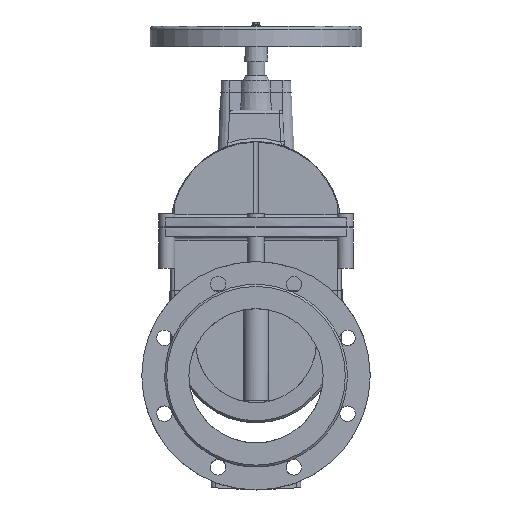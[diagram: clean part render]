
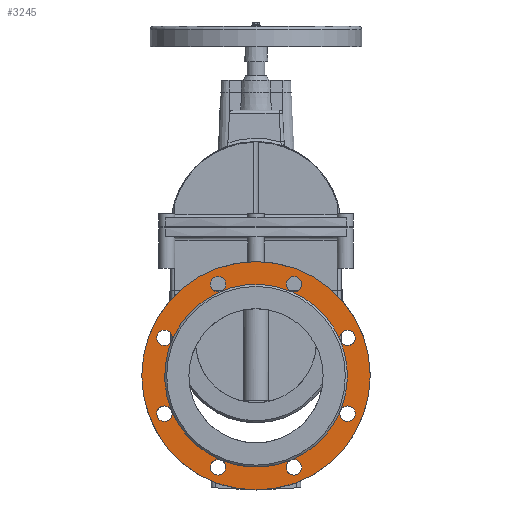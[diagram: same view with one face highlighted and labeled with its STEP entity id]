
A CAD part, left-side view. The second image highlights one B-rep face of the part: STEP entity #3245.
In plain terms, the highlighted planar face has unit normal (-1, 0, 0).
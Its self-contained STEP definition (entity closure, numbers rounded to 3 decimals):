
#3245=ADVANCED_FACE('',(#8237,#8239,#8241,#8243,#8245,#8247,#8249,#8251,#8253,#8255),
#8257,.F.);
#8237=FACE_BOUND('',#8238,.T.);
#8238=EDGE_LOOP('',(#17262));
#8239=FACE_BOUND('',#8240,.T.);
#8240=EDGE_LOOP('',(#17263,#17264));
#8241=FACE_BOUND('',#8242,.T.);
#8242=EDGE_LOOP('',(#17265));
#8243=FACE_BOUND('',#8244,.T.);
#8244=EDGE_LOOP('',(#17266));
#8245=FACE_BOUND('',#8246,.T.);
#8246=EDGE_LOOP('',(#17267,#17268,#17269,#17270,#17271,#17272,#17273));
#8247=FACE_BOUND('',#8248,.T.);
#8248=EDGE_LOOP('',(#17274,#17275));
#8249=FACE_BOUND('',#8250,.T.);
#8250=EDGE_LOOP('',(#17276,#17277));
#8251=FACE_BOUND('',#8252,.T.);
#8252=EDGE_LOOP('',(#17278,#17279));
#8253=FACE_BOUND('',#8254,.T.);
#8254=EDGE_LOOP('',(#17280,#17281));
#8255=FACE_BOUND('',#8256,.T.);
#8256=EDGE_LOOP('',(#17282,#17283));
#8257=PLANE('',#8258);
#8258=AXIS2_PLACEMENT_3D('',#8259,#8260,#8261);
#8259=CARTESIAN_POINT('',(-112.,0.,0.));
#8260=DIRECTION('',(1.,0.,0.));
#8261=DIRECTION('',(0.,1.,0.));
#17262=ORIENTED_EDGE('',*,*,#19967,.F.);
#17263=ORIENTED_EDGE('',*,*,#19975,.T.);
#17264=ORIENTED_EDGE('',*,*,#19976,.T.);
#17265=ORIENTED_EDGE('',*,*,#19974,.T.);
#17266=ORIENTED_EDGE('',*,*,#19987,.T.);
#17267=ORIENTED_EDGE('',*,*,#20110,.F.);
#17268=ORIENTED_EDGE('',*,*,#20111,.F.);
#17269=ORIENTED_EDGE('',*,*,#20112,.F.);
#17270=ORIENTED_EDGE('',*,*,#20113,.F.);
#17271=ORIENTED_EDGE('',*,*,#20114,.F.);
#17272=ORIENTED_EDGE('',*,*,#20115,.F.);
#17273=ORIENTED_EDGE('',*,*,#20116,.F.);
#17274=ORIENTED_EDGE('',*,*,#19986,.T.);
#17275=ORIENTED_EDGE('',*,*,#19985,.T.);
#17276=ORIENTED_EDGE('',*,*,#19984,.T.);
#17277=ORIENTED_EDGE('',*,*,#19983,.T.);
#17278=ORIENTED_EDGE('',*,*,#19982,.T.);
#17279=ORIENTED_EDGE('',*,*,#19981,.T.);
#17280=ORIENTED_EDGE('',*,*,#19980,.T.);
#17281=ORIENTED_EDGE('',*,*,#19979,.T.);
#17282=ORIENTED_EDGE('',*,*,#19977,.T.);
#17283=ORIENTED_EDGE('',*,*,#19978,.T.);
#19967=EDGE_CURVE('',#22602,#22602,#22603,.T.);
#19974=EDGE_CURVE('',#22612,#22612,#22613,.T.);
#19975=EDGE_CURVE('',#22614,#22615,#22616,.T.);
#19976=EDGE_CURVE('',#22615,#22614,#22617,.T.);
#19977=EDGE_CURVE('',#22618,#22619,#22620,.T.);
#19978=EDGE_CURVE('',#22619,#22618,#22621,.T.);
#19979=EDGE_CURVE('',#22622,#22623,#22624,.T.);
#19980=EDGE_CURVE('',#22623,#22622,#22625,.T.);
#19981=EDGE_CURVE('',#22626,#22627,#22628,.T.);
#19982=EDGE_CURVE('',#22627,#22626,#22629,.T.);
#19983=EDGE_CURVE('',#22630,#22631,#22632,.T.);
#19984=EDGE_CURVE('',#22631,#22630,#22633,.T.);
#19985=EDGE_CURVE('',#22634,#22635,#22636,.T.);
#19986=EDGE_CURVE('',#22635,#22634,#22637,.T.);
#19987=EDGE_CURVE('',#22638,#22638,#22639,.T.);
#20110=EDGE_CURVE('',#22631,#22635,#22831,.T.);
#20111=EDGE_CURVE('',#22832,#22631,#22833,.T.);
#20112=EDGE_CURVE('',#22627,#22832,#22834,.T.);
#20113=EDGE_CURVE('',#22623,#22627,#22835,.T.);
#20114=EDGE_CURVE('',#22618,#22623,#22836,.T.);
#20115=EDGE_CURVE('',#22614,#22618,#22837,.T.);
#20116=EDGE_CURVE('',#22635,#22614,#22838,.T.);
#22602=VERTEX_POINT('',#31098);
#22603=CIRCLE('',#31099,170.);
#22612=VERTEX_POINT('',#31125);
#22613=CIRCLE('',#31126,11.5);
#22614=VERTEX_POINT('',#31130);
#22615=VERTEX_POINT('',#31131);
#22616=CIRCLE('',#31132,11.5);
#22617=CIRCLE('',#31136,11.5);
#22618=VERTEX_POINT('',#31140);
#22619=VERTEX_POINT('',#31141);
#22620=CIRCLE('',#31142,11.5);
#22621=CIRCLE('',#31146,11.5);
#22622=VERTEX_POINT('',#31150);
#22623=VERTEX_POINT('',#31151);
#22624=CIRCLE('',#31152,11.5);
#22625=CIRCLE('',#31156,11.5);
#22626=VERTEX_POINT('',#31160);
#22627=VERTEX_POINT('',#31161);
#22628=CIRCLE('',#31162,11.5);
#22629=CIRCLE('',#31166,11.5);
#22630=VERTEX_POINT('',#31170);
#22631=VERTEX_POINT('',#31171);
#22632=CIRCLE('',#31172,11.5);
#22633=CIRCLE('',#31176,11.5);
#22634=VERTEX_POINT('',#31180);
#22635=VERTEX_POINT('',#31181);
#22636=CIRCLE('',#31182,11.5);
#22637=CIRCLE('',#31186,11.5);
#22638=VERTEX_POINT('',#31190);
#22639=CIRCLE('',#31191,11.5);
#22831=CIRCLE('',#31787,136.);
#22832=VERTEX_POINT('',#31791);
#22833=CIRCLE('',#31792,136.);
#22834=CIRCLE('',#31796,136.);
#22835=CIRCLE('',#31800,136.);
#22836=CIRCLE('',#31804,136.);
#22837=CIRCLE('',#31808,136.);
#22838=CIRCLE('',#31812,136.);
#31098=CARTESIAN_POINT('',(-112.,170.,0.));
#31099=AXIS2_PLACEMENT_3D('',#31100,#31101,#31102);
#31100=CARTESIAN_POINT('',(-112.,0.,0.));
#31101=DIRECTION('',(1.,0.,0.));
#31102=DIRECTION('',(0.,1.,0.));
#31125=CARTESIAN_POINT('',(-112.,147.772,56.446));
#31126=AXIS2_PLACEMENT_3D('',#31127,#31128,#31129);
#31127=CARTESIAN_POINT('',(-112.,136.272,56.446));
#31128=DIRECTION('',(1.,0.,0.));
#31129=DIRECTION('',(0.,1.,0.));
#31130=CARTESIAN_POINT('',(-112.,125.648,-52.045));
#31131=CARTESIAN_POINT('',(-112.,144.404,-64.578));
#31132=AXIS2_PLACEMENT_3D('',#31133,#31134,#31135);
#31133=CARTESIAN_POINT('',(-112.,136.272,-56.446));
#31134=DIRECTION('',(1.,0.,0.));
#31135=DIRECTION('',(0.,-0.924,0.383));
#31136=AXIS2_PLACEMENT_3D('',#31137,#31138,#31139);
#31137=CARTESIAN_POINT('',(-112.,136.272,-56.446));
#31138=DIRECTION('',(1.,0.,0.));
#31139=DIRECTION('',(0.,0.707,-0.707));
#31140=CARTESIAN_POINT('',(-112.,52.045,-125.648));
#31141=CARTESIAN_POINT('',(-112.,56.446,-147.772));
#31142=AXIS2_PLACEMENT_3D('',#31143,#31144,#31145);
#31143=CARTESIAN_POINT('',(-112.,56.446,-136.272));
#31144=DIRECTION('',(1.,0.,0.));
#31145=DIRECTION('',(0.,-0.383,0.924));
#31146=AXIS2_PLACEMENT_3D('',#31147,#31148,#31149);
#31147=CARTESIAN_POINT('',(-112.,56.446,-136.272));
#31148=DIRECTION('',(1.,0.,0.));
#31149=DIRECTION('',(0.,0.,-1.));
#31150=CARTESIAN_POINT('',(-112.,-64.578,-144.404));
#31151=CARTESIAN_POINT('',(-112.,-52.045,-125.648));
#31152=AXIS2_PLACEMENT_3D('',#31153,#31154,#31155);
#31153=CARTESIAN_POINT('',(-112.,-56.446,-136.272));
#31154=DIRECTION('',(1.,0.,0.));
#31155=DIRECTION('',(0.,-0.707,-0.707));
#31156=AXIS2_PLACEMENT_3D('',#31157,#31158,#31159);
#31157=CARTESIAN_POINT('',(-112.,-56.446,-136.272));
#31158=DIRECTION('',(1.,0.,0.));
#31159=DIRECTION('',(0.,0.383,0.924));
#31160=CARTESIAN_POINT('',(-112.,-147.772,-56.446));
#31161=CARTESIAN_POINT('',(-112.,-125.648,-52.045));
#31162=AXIS2_PLACEMENT_3D('',#31163,#31164,#31165);
#31163=CARTESIAN_POINT('',(-112.,-136.272,-56.446));
#31164=DIRECTION('',(1.,0.,0.));
#31165=DIRECTION('',(0.,-1.,0.));
#31166=AXIS2_PLACEMENT_3D('',#31167,#31168,#31169);
#31167=CARTESIAN_POINT('',(-112.,-136.272,-56.446));
#31168=DIRECTION('',(1.,0.,0.));
#31169=DIRECTION('',(0.,0.924,0.383));
#31170=CARTESIAN_POINT('',(-112.,-144.404,64.578));
#31171=CARTESIAN_POINT('',(-112.,-125.648,52.045));
#31172=AXIS2_PLACEMENT_3D('',#31173,#31174,#31175);
#31173=CARTESIAN_POINT('',(-112.,-136.272,56.446));
#31174=DIRECTION('',(1.,0.,0.));
#31175=DIRECTION('',(0.,-0.707,0.707));
#31176=AXIS2_PLACEMENT_3D('',#31177,#31178,#31179);
#31177=CARTESIAN_POINT('',(-112.,-136.272,56.446));
#31178=DIRECTION('',(1.,0.,0.));
#31179=DIRECTION('',(0.,0.924,-0.383));
#31180=CARTESIAN_POINT('',(-112.,-56.446,147.772));
#31181=CARTESIAN_POINT('',(-112.,-52.045,125.648));
#31182=AXIS2_PLACEMENT_3D('',#31183,#31184,#31185);
#31183=CARTESIAN_POINT('',(-112.,-56.446,136.272));
#31184=DIRECTION('',(1.,0.,0.));
#31185=DIRECTION('',(0.,0.,1.));
#31186=AXIS2_PLACEMENT_3D('',#31187,#31188,#31189);
#31187=CARTESIAN_POINT('',(-112.,-56.446,136.272));
#31188=DIRECTION('',(1.,0.,0.));
#31189=DIRECTION('',(0.,0.383,-0.924));
#31190=CARTESIAN_POINT('',(-112.,64.578,144.404));
#31191=AXIS2_PLACEMENT_3D('',#31192,#31193,#31194);
#31192=CARTESIAN_POINT('',(-112.,56.446,136.272));
#31193=DIRECTION('',(1.,0.,0.));
#31194=DIRECTION('',(0.,0.707,0.707));
#31787=AXIS2_PLACEMENT_3D('',#31788,#31789,#31790);
#31788=CARTESIAN_POINT('',(-112.,0.,0.));
#31789=DIRECTION('',(-1.,0.,0.));
#31790=DIRECTION('',(0.,-0.924,0.383));
#31791=CARTESIAN_POINT('',(-112.,-136.,0.));
#31792=AXIS2_PLACEMENT_3D('',#31793,#31794,#31795);
#31793=CARTESIAN_POINT('',(-112.,0.,0.));
#31794=DIRECTION('',(-1.,0.,0.));
#31795=DIRECTION('',(0.,-1.,0.));
#31796=AXIS2_PLACEMENT_3D('',#31797,#31798,#31799);
#31797=CARTESIAN_POINT('',(-112.,0.,0.));
#31798=DIRECTION('',(-1.,0.,0.));
#31799=DIRECTION('',(0.,-0.924,-0.383));
#31800=AXIS2_PLACEMENT_3D('',#31801,#31802,#31803);
#31801=CARTESIAN_POINT('',(-112.,0.,0.));
#31802=DIRECTION('',(-1.,0.,0.));
#31803=DIRECTION('',(0.,-0.383,-0.924));
#31804=AXIS2_PLACEMENT_3D('',#31805,#31806,#31807);
#31805=CARTESIAN_POINT('',(-112.,0.,0.));
#31806=DIRECTION('',(-1.,0.,0.));
#31807=DIRECTION('',(0.,0.383,-0.924));
#31808=AXIS2_PLACEMENT_3D('',#31809,#31810,#31811);
#31809=CARTESIAN_POINT('',(-112.,0.,0.));
#31810=DIRECTION('',(-1.,0.,0.));
#31811=DIRECTION('',(0.,0.924,-0.383));
#31812=AXIS2_PLACEMENT_3D('',#31813,#31814,#31815);
#31813=CARTESIAN_POINT('',(-112.,0.,0.));
#31814=DIRECTION('',(-1.,0.,0.));
#31815=DIRECTION('',(0.,-0.383,0.924));
